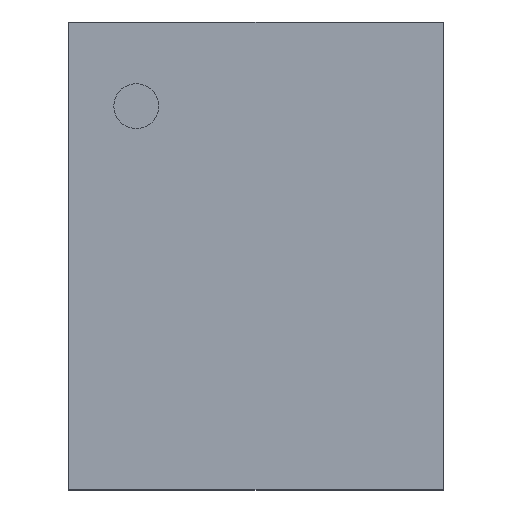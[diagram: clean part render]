
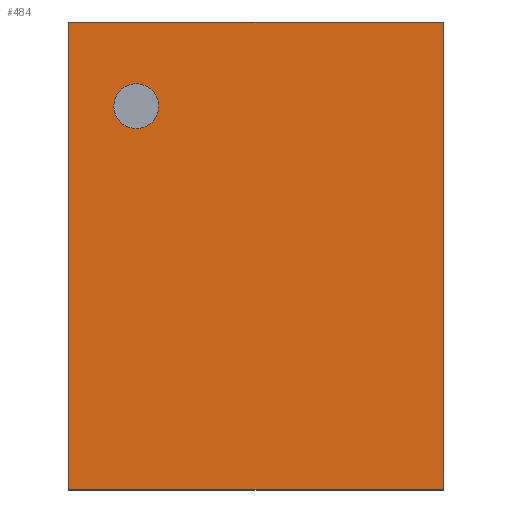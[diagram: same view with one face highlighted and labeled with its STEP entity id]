
A CAD part, top view. The second image highlights one B-rep face of the part: STEP entity #484.
In plain terms, the highlighted planar face has unit normal (0, 0, 1).
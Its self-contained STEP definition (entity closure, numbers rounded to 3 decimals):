
#47 = EDGE_CURVE('',#48,#50,#52,.T.);
#48 = VERTEX_POINT('',#49);
#49 = CARTESIAN_POINT('',(-1.,-1.25,0.85));
#50 = VERTEX_POINT('',#51);
#51 = CARTESIAN_POINT('',(-1.,1.25,0.85));
#52 = SURFACE_CURVE('',#53,(#57,#69),.PCURVE_S1.);
#53 = LINE('',#54,#55);
#54 = CARTESIAN_POINT('',(-1.,-1.25,0.85));
#55 = VECTOR('',#56,1.);
#56 = DIRECTION('',(0.,1.,0.));
#57 = PCURVE('',#58,#63);
#58 = PLANE('',#59);
#59 = AXIS2_PLACEMENT_3D('',#60,#61,#62);
#60 = CARTESIAN_POINT('',(-1.,-1.25,0.035));
#61 = DIRECTION('',(1.,0.,0.));
#62 = DIRECTION('',(0.,0.,1.));
#63 = DEFINITIONAL_REPRESENTATION('',(#64),#68);
#64 = LINE('',#65,#66);
#65 = CARTESIAN_POINT('',(0.815,0.));
#66 = VECTOR('',#67,1.);
#67 = DIRECTION('',(0.,-1.));
#68 = ( GEOMETRIC_REPRESENTATION_CONTEXT(2) 
PARAMETRIC_REPRESENTATION_CONTEXT() REPRESENTATION_CONTEXT('2D SPACE',''
  ) );
#69 = PCURVE('',#70,#75);
#70 = PLANE('',#71);
#71 = AXIS2_PLACEMENT_3D('',#72,#73,#74);
#72 = CARTESIAN_POINT('',(-1.,-1.25,0.85));
#73 = DIRECTION('',(0.,0.,1.));
#74 = DIRECTION('',(1.,0.,0.));
#75 = DEFINITIONAL_REPRESENTATION('',(#76),#80);
#76 = LINE('',#77,#78);
#77 = CARTESIAN_POINT('',(0.,0.));
#78 = VECTOR('',#79,1.);
#79 = DIRECTION('',(0.,1.));
#80 = ( GEOMETRIC_REPRESENTATION_CONTEXT(2) 
PARAMETRIC_REPRESENTATION_CONTEXT() REPRESENTATION_CONTEXT('2D SPACE',''
  ) );
#98 = PLANE('',#99);
#99 = AXIS2_PLACEMENT_3D('',#100,#101,#102);
#100 = CARTESIAN_POINT('',(-1.,-1.25,0.035));
#101 = DIRECTION('',(0.,1.,0.));
#102 = DIRECTION('',(0.,0.,1.));
#473 = PLANE('',#474);
#474 = AXIS2_PLACEMENT_3D('',#475,#476,#477);
#475 = CARTESIAN_POINT('',(-1.,1.25,0.035));
#476 = DIRECTION('',(0.,1.,0.));
#477 = DIRECTION('',(0.,0.,1.));
#484 = ADVANCED_FACE('',(#485,#560),#70,.T.);
#485 = FACE_BOUND('',#486,.T.);
#486 = EDGE_LOOP('',(#487,#488,#511,#539));
#487 = ORIENTED_EDGE('',*,*,#47,.F.);
#488 = ORIENTED_EDGE('',*,*,#489,.T.);
#489 = EDGE_CURVE('',#48,#490,#492,.T.);
#490 = VERTEX_POINT('',#491);
#491 = CARTESIAN_POINT('',(1.,-1.25,0.85));
#492 = SURFACE_CURVE('',#493,(#497,#504),.PCURVE_S1.);
#493 = LINE('',#494,#495);
#494 = CARTESIAN_POINT('',(-1.,-1.25,0.85));
#495 = VECTOR('',#496,1.);
#496 = DIRECTION('',(1.,0.,0.));
#497 = PCURVE('',#70,#498);
#498 = DEFINITIONAL_REPRESENTATION('',(#499),#503);
#499 = LINE('',#500,#501);
#500 = CARTESIAN_POINT('',(0.,0.));
#501 = VECTOR('',#502,1.);
#502 = DIRECTION('',(1.,0.));
#503 = ( GEOMETRIC_REPRESENTATION_CONTEXT(2) 
PARAMETRIC_REPRESENTATION_CONTEXT() REPRESENTATION_CONTEXT('2D SPACE',''
  ) );
#504 = PCURVE('',#98,#505);
#505 = DEFINITIONAL_REPRESENTATION('',(#506),#510);
#506 = LINE('',#507,#508);
#507 = CARTESIAN_POINT('',(0.815,0.));
#508 = VECTOR('',#509,1.);
#509 = DIRECTION('',(0.,1.));
#510 = ( GEOMETRIC_REPRESENTATION_CONTEXT(2) 
PARAMETRIC_REPRESENTATION_CONTEXT() REPRESENTATION_CONTEXT('2D SPACE',''
  ) );
#511 = ORIENTED_EDGE('',*,*,#512,.T.);
#512 = EDGE_CURVE('',#490,#513,#515,.T.);
#513 = VERTEX_POINT('',#514);
#514 = CARTESIAN_POINT('',(1.,1.25,0.85));
#515 = SURFACE_CURVE('',#516,(#520,#527),.PCURVE_S1.);
#516 = LINE('',#517,#518);
#517 = CARTESIAN_POINT('',(1.,-1.25,0.85));
#518 = VECTOR('',#519,1.);
#519 = DIRECTION('',(0.,1.,0.));
#520 = PCURVE('',#70,#521);
#521 = DEFINITIONAL_REPRESENTATION('',(#522),#526);
#522 = LINE('',#523,#524);
#523 = CARTESIAN_POINT('',(2.,0.));
#524 = VECTOR('',#525,1.);
#525 = DIRECTION('',(0.,1.));
#526 = ( GEOMETRIC_REPRESENTATION_CONTEXT(2) 
PARAMETRIC_REPRESENTATION_CONTEXT() REPRESENTATION_CONTEXT('2D SPACE',''
  ) );
#527 = PCURVE('',#528,#533);
#528 = PLANE('',#529);
#529 = AXIS2_PLACEMENT_3D('',#530,#531,#532);
#530 = CARTESIAN_POINT('',(1.,-1.25,0.035));
#531 = DIRECTION('',(1.,0.,0.));
#532 = DIRECTION('',(0.,0.,1.));
#533 = DEFINITIONAL_REPRESENTATION('',(#534),#538);
#534 = LINE('',#535,#536);
#535 = CARTESIAN_POINT('',(0.815,0.));
#536 = VECTOR('',#537,1.);
#537 = DIRECTION('',(0.,-1.));
#538 = ( GEOMETRIC_REPRESENTATION_CONTEXT(2) 
PARAMETRIC_REPRESENTATION_CONTEXT() REPRESENTATION_CONTEXT('2D SPACE',''
  ) );
#539 = ORIENTED_EDGE('',*,*,#540,.F.);
#540 = EDGE_CURVE('',#50,#513,#541,.T.);
#541 = SURFACE_CURVE('',#542,(#546,#553),.PCURVE_S1.);
#542 = LINE('',#543,#544);
#543 = CARTESIAN_POINT('',(-1.,1.25,0.85));
#544 = VECTOR('',#545,1.);
#545 = DIRECTION('',(1.,0.,0.));
#546 = PCURVE('',#70,#547);
#547 = DEFINITIONAL_REPRESENTATION('',(#548),#552);
#548 = LINE('',#549,#550);
#549 = CARTESIAN_POINT('',(0.,2.5));
#550 = VECTOR('',#551,1.);
#551 = DIRECTION('',(1.,0.));
#552 = ( GEOMETRIC_REPRESENTATION_CONTEXT(2) 
PARAMETRIC_REPRESENTATION_CONTEXT() REPRESENTATION_CONTEXT('2D SPACE',''
  ) );
#553 = PCURVE('',#473,#554);
#554 = DEFINITIONAL_REPRESENTATION('',(#555),#559);
#555 = LINE('',#556,#557);
#556 = CARTESIAN_POINT('',(0.815,0.));
#557 = VECTOR('',#558,1.);
#558 = DIRECTION('',(0.,1.));
#559 = ( GEOMETRIC_REPRESENTATION_CONTEXT(2) 
PARAMETRIC_REPRESENTATION_CONTEXT() REPRESENTATION_CONTEXT('2D SPACE',''
  ) );
#560 = FACE_BOUND('',#561,.T.);
#561 = EDGE_LOOP('',(#562));
#562 = ORIENTED_EDGE('',*,*,#563,.F.);
#563 = EDGE_CURVE('',#564,#564,#566,.T.);
#564 = VERTEX_POINT('',#565);
#565 = CARTESIAN_POINT('',(-0.52,0.8,0.85));
#566 = SURFACE_CURVE('',#567,(#572,#579),.PCURVE_S1.);
#567 = CIRCLE('',#568,0.12);
#568 = AXIS2_PLACEMENT_3D('',#569,#570,#571);
#569 = CARTESIAN_POINT('',(-0.64,0.8,0.85));
#570 = DIRECTION('',(0.,0.,1.));
#571 = DIRECTION('',(1.,0.,0.));
#572 = PCURVE('',#70,#573);
#573 = DEFINITIONAL_REPRESENTATION('',(#574),#578);
#574 = CIRCLE('',#575,0.12);
#575 = AXIS2_PLACEMENT_2D('',#576,#577);
#576 = CARTESIAN_POINT('',(0.36,2.05));
#577 = DIRECTION('',(1.,0.));
#578 = ( GEOMETRIC_REPRESENTATION_CONTEXT(2) 
PARAMETRIC_REPRESENTATION_CONTEXT() REPRESENTATION_CONTEXT('2D SPACE',''
  ) );
#579 = PCURVE('',#580,#585);
#580 = CYLINDRICAL_SURFACE('',#581,0.12);
#581 = AXIS2_PLACEMENT_3D('',#582,#583,#584);
#582 = CARTESIAN_POINT('',(-0.64,0.8,0.844));
#583 = DIRECTION('',(-0.,-0.,-1.));
#584 = DIRECTION('',(1.,0.,0.));
#585 = DEFINITIONAL_REPRESENTATION('',(#586),#590);
#586 = LINE('',#587,#588);
#587 = CARTESIAN_POINT('',(-0.,-0.006));
#588 = VECTOR('',#589,1.);
#589 = DIRECTION('',(-1.,0.));
#590 = ( GEOMETRIC_REPRESENTATION_CONTEXT(2) 
PARAMETRIC_REPRESENTATION_CONTEXT() REPRESENTATION_CONTEXT('2D SPACE',''
  ) );
